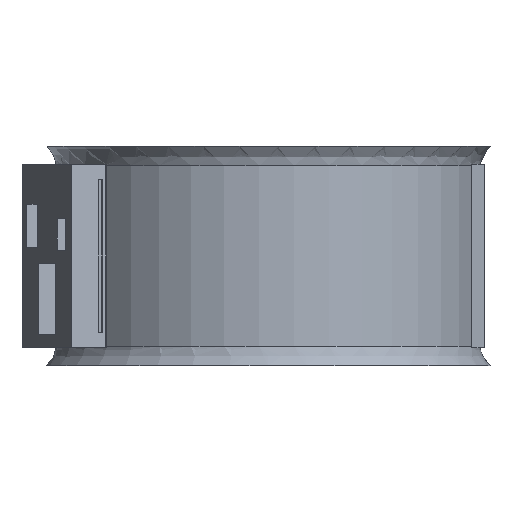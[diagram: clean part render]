
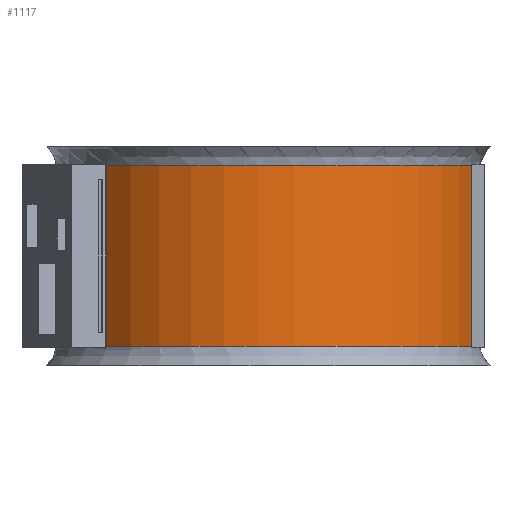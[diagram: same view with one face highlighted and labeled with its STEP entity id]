
A CAD part, front view. The second image highlights one B-rep face of the part: STEP entity #1117.
In plain terms, the highlighted cylindrical face has radius 9.85 mm (diameter 19.7 mm), a partial arc.
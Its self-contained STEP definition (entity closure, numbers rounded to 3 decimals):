
#715 = VERTEX_POINT('',#716);
#716 = CARTESIAN_POINT('',(-7.536,-6.343,4.2));
#724 = EDGE_CURVE('',#715,#725,#727,.T.);
#725 = VERTEX_POINT('',#726);
#726 = CARTESIAN_POINT('',(9.45,-2.778,4.2));
#727 = CIRCLE('',#728,9.85);
#728 = AXIS2_PLACEMENT_3D('',#729,#730,#731);
#729 = CARTESIAN_POINT('',(0.,0.,4.2));
#730 = DIRECTION('',(0.,0.,1.));
#731 = DIRECTION('',(1.,0.,0.));
#1097 = VERTEX_POINT('',#1098);
#1098 = CARTESIAN_POINT('',(9.45,-2.778,-4.2));
#1106 = EDGE_CURVE('',#1097,#725,#1107,.T.);
#1107 = LINE('',#1108,#1109);
#1108 = CARTESIAN_POINT('',(9.45,-2.778,-5.1));
#1109 = VECTOR('',#1110,1.);
#1110 = DIRECTION('',(0.,0.,1.));
#1117 = ADVANCED_FACE('',(#1118),#1137,.T.);
#1118 = FACE_BOUND('',#1119,.T.);
#1119 = EDGE_LOOP('',(#1120,#1129,#1130,#1131));
#1120 = ORIENTED_EDGE('',*,*,#1121,.T.);
#1121 = EDGE_CURVE('',#1122,#1097,#1124,.T.);
#1122 = VERTEX_POINT('',#1123);
#1123 = CARTESIAN_POINT('',(-7.536,-6.343,-4.2));
#1124 = CIRCLE('',#1125,9.85);
#1125 = AXIS2_PLACEMENT_3D('',#1126,#1127,#1128);
#1126 = CARTESIAN_POINT('',(0.,0.,-4.2));
#1127 = DIRECTION('',(0.,0.,1.));
#1128 = DIRECTION('',(1.,0.,0.));
#1129 = ORIENTED_EDGE('',*,*,#1106,.T.);
#1130 = ORIENTED_EDGE('',*,*,#724,.F.);
#1131 = ORIENTED_EDGE('',*,*,#1132,.F.);
#1132 = EDGE_CURVE('',#1122,#715,#1133,.T.);
#1133 = LINE('',#1134,#1135);
#1134 = CARTESIAN_POINT('',(-7.536,-6.343,-5.1));
#1135 = VECTOR('',#1136,1.);
#1136 = DIRECTION('',(0.,0.,1.));
#1137 = CYLINDRICAL_SURFACE('',#1138,9.85);
#1138 = AXIS2_PLACEMENT_3D('',#1139,#1140,#1141);
#1139 = CARTESIAN_POINT('',(0.,0.,-5.1));
#1140 = DIRECTION('',(0.,0.,1.));
#1141 = DIRECTION('',(1.,0.,0.));
